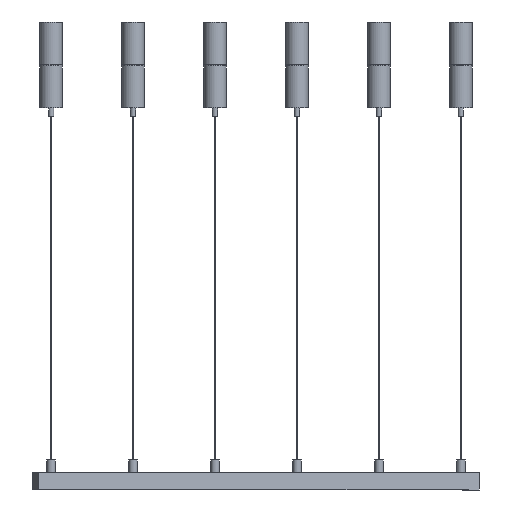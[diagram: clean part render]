
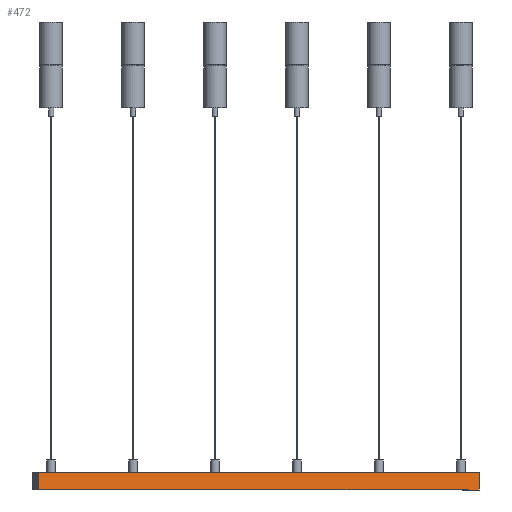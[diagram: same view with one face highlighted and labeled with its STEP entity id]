
A CAD part, left-side view. The second image highlights one B-rep face of the part: STEP entity #472.
In plain terms, the highlighted planar face has unit normal (-0.892, -0.452, 0) as drawn and (0, -1, 0) by its records, which use the part's own axes.
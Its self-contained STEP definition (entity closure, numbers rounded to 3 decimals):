
#93=LINE('',#851,#105);
#94=LINE('',#854,#106);
#95=LINE('',#856,#107);
#96=LINE('',#857,#108);
#105=VECTOR('',#684,10.);
#106=VECTOR('',#687,10.);
#107=VECTOR('',#688,10.);
#108=VECTOR('',#689,10.);
#121=PLANE('',#571);
#175=FACE_OUTER_BOUND('',#218,.T.);
#218=EDGE_LOOP('',(#387,#388,#389,#390));
#302=VERTEX_POINT('',#845);
#304=VERTEX_POINT('',#849);
#305=VERTEX_POINT('',#853);
#306=VERTEX_POINT('',#855);
#340=EDGE_CURVE('',#302,#304,#93,.T.);
#341=EDGE_CURVE('',#302,#305,#94,.T.);
#342=EDGE_CURVE('',#306,#304,#95,.T.);
#343=EDGE_CURVE('',#305,#306,#96,.T.);
#387=ORIENTED_EDGE('',*,*,#341,.F.);
#388=ORIENTED_EDGE('',*,*,#340,.T.);
#389=ORIENTED_EDGE('',*,*,#342,.F.);
#390=ORIENTED_EDGE('',*,*,#343,.F.);
#472=ADVANCED_FACE('',(#175),#121,.T.);
#571=AXIS2_PLACEMENT_3D('',#852,#685,#686);
#684=DIRECTION('',(0.,0.,1.));
#685=DIRECTION('center_axis',(0.,-1.,0.));
#686=DIRECTION('ref_axis',(1.,0.,0.));
#687=DIRECTION('',(-1.,0.,0.));
#688=DIRECTION('',(1.,0.,0.));
#689=DIRECTION('',(0.,0.,1.));
#845=CARTESIAN_POINT('',(575.,-15.,0.));
#849=CARTESIAN_POINT('',(575.,-15.,40.));
#851=CARTESIAN_POINT('',(575.,-15.,0.));
#852=CARTESIAN_POINT('Origin',(-575.,-15.,0.));
#853=CARTESIAN_POINT('',(-575.,-15.,0.));
#854=CARTESIAN_POINT('',(575.,-15.,0.));
#855=CARTESIAN_POINT('',(-575.,-15.,40.));
#856=CARTESIAN_POINT('',(575.,-15.,40.));
#857=CARTESIAN_POINT('',(-575.,-15.,0.));
